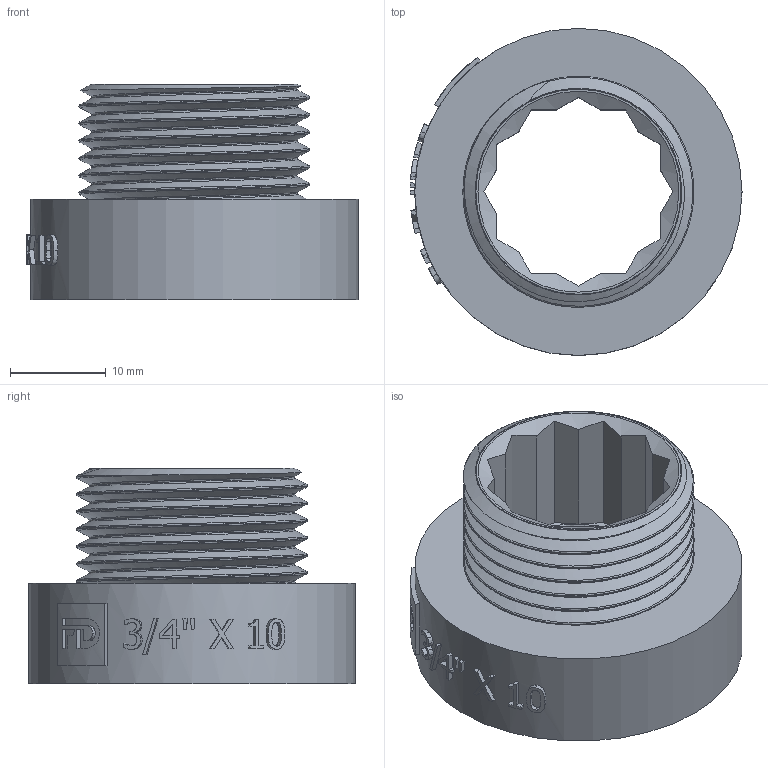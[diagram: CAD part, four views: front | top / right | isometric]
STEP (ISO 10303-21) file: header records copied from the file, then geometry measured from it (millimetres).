
FILE_DESCRIPTION(/* description */ (''),/* implementation_level */ '2;1');
FILE_NAME(/* name */ 'C:\Users\Doom\Desktop\Фадотех\Резьба\UN10 18.03.2020\UN10 18.03.2020.stp',/* time_stamp */ '2022-01-22T12:36:57+02:00',/* author */ ('Doom'),/* organization */ (''),/* preprocessor_version */ 'ST-DEVELOPER v18',/* originating_system */ 'Autodesk Inventor 2020',/* authorisation */ '');
FILE_SCHEMA (('AUTOMOTIVE_DESIGN { 1 0 10303 214 3 1 1 }'));
Length unit declared in the file: millimetre
Products named in the file (1): UD10 18.03.2020
Bounding box: 34.7 x 34.2 x 22.5 mm (x, y, z)
Volume: 6963.9 mm3; surface area: 9423.9 mm2
Topology: 3 solids, 3 shells, 190 faces, 519 edges, 348 vertices
Faces by surface type: plane 89, bspline 65, cylinder 32, cone 4
Full cylindrical faces by diameter (mm): 21.44 x2, 23.75 x5, 24.13 x5, 26.44 x2, 34.2 x1
Entity records: 13695 total; most frequent: CARTESIAN_POINT 9403, ORIENTED_EDGE 1030, DIRECTION 649, EDGE_CURVE 515, VERTEX_POINT 346, AXIS2_PLACEMENT_3D 226, EDGE_LOOP 211, LINE 197
